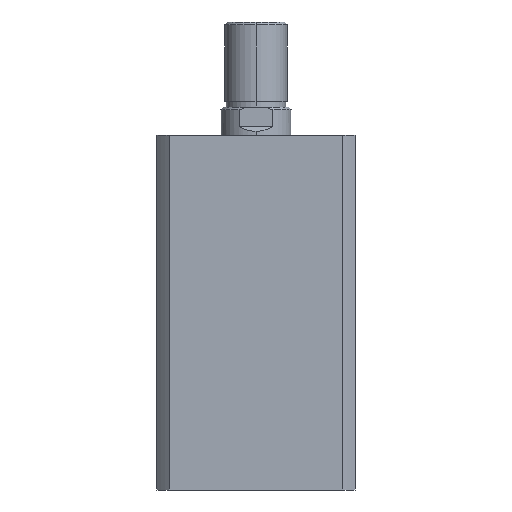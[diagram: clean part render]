
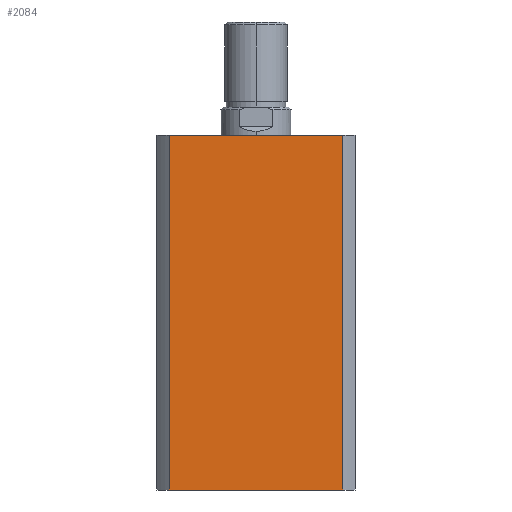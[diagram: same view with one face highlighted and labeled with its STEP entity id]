
A CAD part, left-side view. The second image highlights one B-rep face of the part: STEP entity #2084.
In plain terms, the highlighted planar face has unit normal (-1, 0, 0).
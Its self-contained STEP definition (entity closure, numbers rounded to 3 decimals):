
#81 = VECTOR ( 'NONE', #682, 1000. ) ;
#83 = VECTOR ( 'NONE', #667, 1000. ) ;
#84 = LINE ( 'NONE', #681, #81 ) ;
#86 = LINE ( 'NONE', #666, #83 ) ;
#87 = VECTOR ( 'NONE', #675, 1000. ) ;
#91 = LINE ( 'NONE', #674, #87 ) ;
#155 = FACE_OUTER_BOUND ( 'NONE', #4436, .T. ) ;
#175 = VECTOR ( 'NONE', #516, 1000. ) ;
#185 = LINE ( 'NONE', #517, #175 ) ;
#516 = DIRECTION ( 'NONE',  ( 0., -1., 0. ) ) ;
#517 = CARTESIAN_POINT ( 'NONE',  ( -35., 0., 0. ) ) ;
#666 = CARTESIAN_POINT ( 'NONE',  ( -35., -30.615, 125. ) ) ;
#667 = DIRECTION ( 'NONE',  ( 0., 0., -1. ) ) ;
#674 = CARTESIAN_POINT ( 'NONE',  ( -35., 30.615, 125. ) ) ;
#675 = DIRECTION ( 'NONE',  ( 0., 0., -1. ) ) ;
#681 = CARTESIAN_POINT ( 'NONE',  ( -35., 0., 125. ) ) ;
#682 = DIRECTION ( 'NONE',  ( 0., -1., 0. ) ) ;
#1000 = CARTESIAN_POINT ( 'NONE',  ( -35., -30.615, 125. ) ) ;
#1026 = CARTESIAN_POINT ( 'NONE',  ( -35., 30.615, 125. ) ) ;
#1861 = DIRECTION ( 'NONE',  ( 0., 1., 0. ) ) ;
#1862 = DIRECTION ( 'NONE',  ( 1., 0., 0. ) ) ;
#1866 = PLANE ( 'NONE',  #3788 ) ;
#1871 = CARTESIAN_POINT ( 'NONE',  ( -35., 0., 125. ) ) ;
#2084 = ADVANCED_FACE ( 'NONE', ( #155 ), #1866, .F. ) ;
#2703 = VERTEX_POINT ( 'NONE', #1000 ) ;
#2729 = VERTEX_POINT ( 'NONE', #1026 ) ;
#3219 = CARTESIAN_POINT ( 'NONE',  ( -35., 30.615, 0. ) ) ;
#3233 = CARTESIAN_POINT ( 'NONE',  ( -35., -30.615, 0. ) ) ;
#3583 = EDGE_CURVE ( 'NONE', #4049, #4063, #185, .T. ) ;
#3615 = EDGE_CURVE ( 'NONE', #2729, #4049, #91, .T. ) ;
#3617 = EDGE_CURVE ( 'NONE', #2703, #4063, #86, .T. ) ;
#3618 = EDGE_CURVE ( 'NONE', #2729, #2703, #84, .T. ) ;
#3788 = AXIS2_PLACEMENT_3D ( 'NONE', #1871, #1862, #1861 ) ;
#4049 = VERTEX_POINT ( 'NONE', #3219 ) ;
#4063 = VERTEX_POINT ( 'NONE', #3233 ) ;
#4312 = ORIENTED_EDGE ( 'NONE', *, *, #3615, .T. ) ;
#4316 = ORIENTED_EDGE ( 'NONE', *, *, #3617, .F. ) ;
#4317 = ORIENTED_EDGE ( 'NONE', *, *, #3583, .T. ) ;
#4318 = ORIENTED_EDGE ( 'NONE', *, *, #3618, .F. ) ;
#4436 = EDGE_LOOP ( 'NONE', ( #4317, #4316, #4318, #4312 ) ) ;
